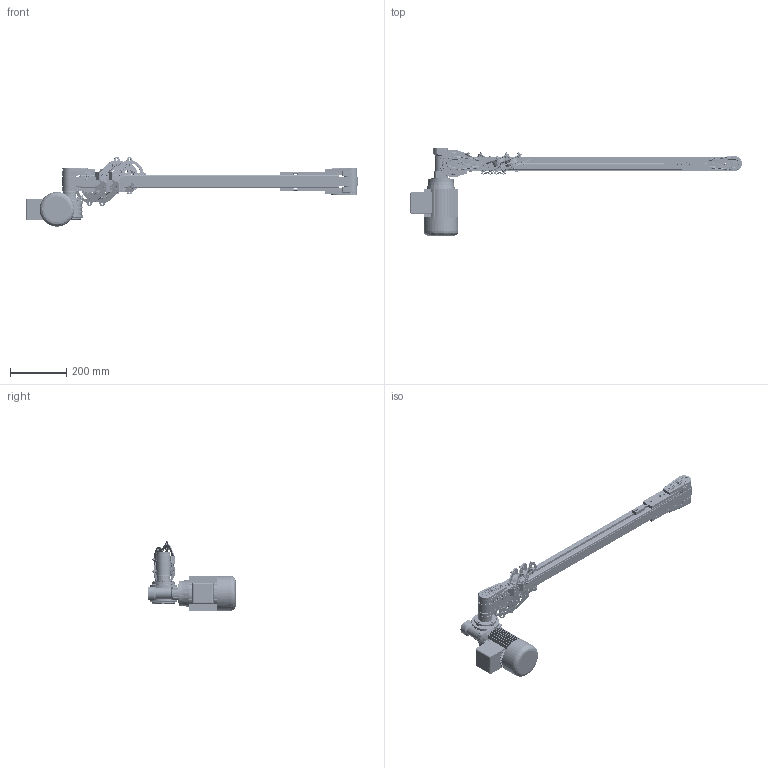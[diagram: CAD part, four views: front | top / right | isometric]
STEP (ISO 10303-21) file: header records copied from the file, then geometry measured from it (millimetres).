
FILE_DESCRIPTION (( 'STEP AP203' ), '1' );
FILE_NAME ('NASTRO_PISTE_PARALLELE.step', '2026-06-03T08:08:18', ( 'Utente Windows' ), ( '' ), 'SwSTEP 2.0', 'SolidWorks 2024', '' );
FILE_SCHEMA (( 'CONFIG_CONTROL_DESIGN' ));
Length unit declared in the file: millimetre
Products named in the file (29): 084.802.061; 084.815.111; 084.302.000 DADI ALUSIC 13x13_084.302.004; 084.802.017_084.802.017; CH04P_DX; CHIAVETTE_A 5x5x40 UNI 6604-69; VITI TE UNI 5739_M8x12 UNI 5739; VITI TE UNI 5739_M6x16 UNI 5739; 084.808.012; NASTRO_PISTE_PARALLELE; D50_L35_TAPPETO_TRAINO_PISTA_SINGOLA_DX; 084.802.060_Default<A macchina>; VITI TCEI UNI 5931_M6x12 UNI 5931; PROFILO_POLIZENE_TAPPETO_L35_Default<A macchina>; 084.803.018; 084.301.000 VITI ALUSIC_084.301.003; 084.802.062; 084.000.A47_VF30P; 084.802.008; 084.808.014; VITI TE UNI 5739_M6x12 UNI 5739; D50_L35_TAPPETO_RINVIO; 084.000.A49_SA37; 084.815.110-1; TAPPETO_STANDARD; TELAIO_45X45_Default<A macchina>; 084.802.071; 084.807.003_084.807.003<A macchina>; VITI TCEI UNI 5931_M4x12 UNI 5931
Assembly tree (64 placements, depth 4):
  NASTRO_PISTE_PARALLELE
    TAPPETO_STANDARD
    PROFILO_POLIZENE_TAPPETO_L35_Default<A macchina>
    TELAIO_45X45_Default<A macchina>
    D50_L35_TAPPETO_TRAINO_PISTA_SINGOLA_DX
      084.807.003_084.807.003<A macchina>  x2
      084.802.017_084.802.017  x2
      084.815.110-1
      084.802.071
      084.000.A47_VF30P
        084.808.012
        084.802.062
        084.802.061
        VITI TE UNI 5739_M6x16 UNI 5739  x4
        084.803.018
        VITI TCEI UNI 5931_M6x12 UNI 5931  x4
      084.000.A49_SA37  x4
        084.808.014
        084.802.060_Default<A macchina>
        VITI TE UNI 5739_M8x12 UNI 5739
        084.802.062
        VITI TE UNI 5739_M6x12 UNI 5739
      CHIAVETTE_A 5x5x40 UNI 6604-69
      VITI TCEI UNI 5931_M4x12 UNI 5931  x2
    D50_L35_TAPPETO_RINVIO
      084.815.111
      084.301.000 VITI ALUSIC_084.301.003  x6
      084.302.000 DADI ALUSIC 13x13_084.302.004  x6
      084.807.003_084.807.003<A macchina>  x2
      084.802.017_084.802.017  x2
      084.802.008  x2
      084.802.071  x2
    CH04P_DX
Bounding box: 1181.6 x 311 x 246.55 mm (x, y, z)
Volume: 4923484.2 mm3; surface area: 1404550 mm2
Topology: 98 solids, 108 shells, 6166 faces, 15715 edges, 9989 vertices
Faces by surface type: plane 2959, cylinder 1283, cone 896, bspline 635, torus 351, sphere 42
Entity records: 99113 total; most frequent: CARTESIAN_POINT 32431, ORIENTED_EDGE 13582, DIRECTION 12386, EDGE_CURVE 6791, VERTEX_POINT 4347, AXIS2_PLACEMENT_3D 4347, LINE 3692, VECTOR 3692
